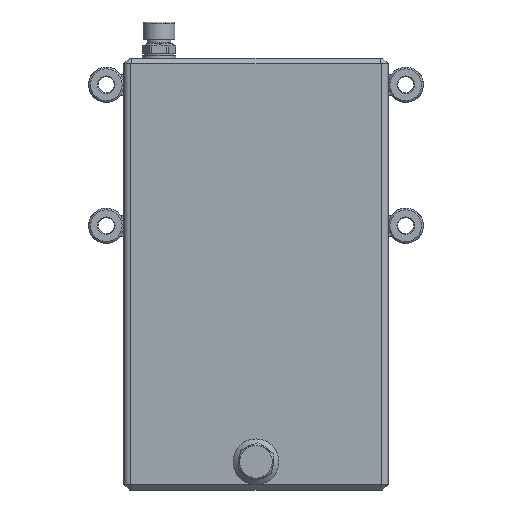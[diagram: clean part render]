
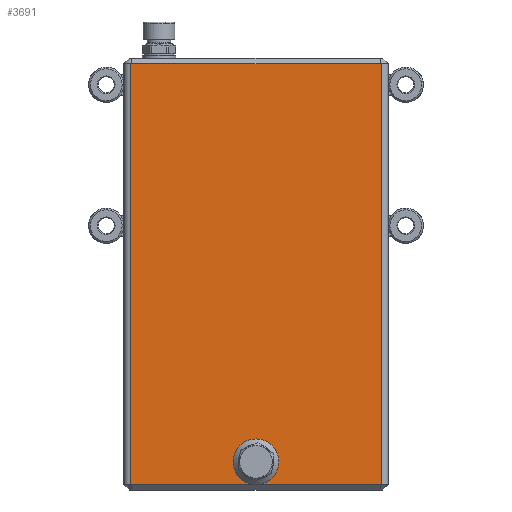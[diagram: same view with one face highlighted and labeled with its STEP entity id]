
A CAD part, front view. The second image highlights one B-rep face of the part: STEP entity #3691.
In plain terms, the highlighted planar face has unit normal (0, -1, 0).
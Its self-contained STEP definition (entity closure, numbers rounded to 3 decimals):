
#111=LINE('',#7881,#330);
#114=LINE('',#7889,#333);
#115=LINE('',#7893,#334);
#118=LINE('',#7903,#337);
#119=LINE('',#7908,#338);
#120=LINE('',#7909,#339);
#122=LINE('',#7942,#341);
#131=LINE('',#7966,#350);
#132=LINE('',#7968,#351);
#330=VECTOR('',#6705,1000.);
#333=VECTOR('',#6712,1000.);
#334=VECTOR('',#6717,1000.);
#337=VECTOR('',#6726,1000.);
#338=VECTOR('',#6733,1000.);
#339=VECTOR('',#6734,1000.);
#341=VECTOR('',#6776,1000.);
#350=VECTOR('',#6803,1000.);
#351=VECTOR('',#6806,1000.);
#1099=ORIENTED_EDGE('',*,*,#1786,.T.);
#1100=ORIENTED_EDGE('',*,*,#1784,.T.);
#1101=ORIENTED_EDGE('',*,*,#1785,.T.);
#1102=ORIENTED_EDGE('',*,*,#1783,.T.);
#1103=ORIENTED_EDGE('',*,*,#1778,.T.);
#1104=ORIENTED_EDGE('',*,*,#1810,.T.);
#1105=ORIENTED_EDGE('',*,*,#1811,.T.);
#1106=ORIENTED_EDGE('',*,*,#1798,.T.);
#1107=ORIENTED_EDGE('',*,*,#1776,.T.);
#1108=ORIENTED_EDGE('',*,*,#1772,.T.);
#1772=EDGE_CURVE('',#2189,#2162,#111,.T.);
#1776=EDGE_CURVE('',#2192,#2189,#114,.T.);
#1778=EDGE_CURVE('',#2193,#2194,#115,.T.);
#1783=EDGE_CURVE('',#2157,#2193,#118,.T.);
#1784=EDGE_CURVE('',#2197,#2197,#2489,.F.);
#1785=EDGE_CURVE('',#2197,#2157,#119,.T.);
#1786=EDGE_CURVE('',#2162,#2197,#120,.T.);
#1798=EDGE_CURVE('',#2208,#2192,#122,.T.);
#1810=EDGE_CURVE('',#2194,#2214,#131,.T.);
#1811=EDGE_CURVE('',#2214,#2208,#132,.T.);
#2157=VERTEX_POINT('',#7751);
#2162=VERTEX_POINT('',#7767);
#2189=VERTEX_POINT('',#7882);
#2192=VERTEX_POINT('',#7890);
#2193=VERTEX_POINT('',#7894);
#2194=VERTEX_POINT('',#7895);
#2197=VERTEX_POINT('',#7906);
#2208=VERTEX_POINT('',#7940);
#2214=VERTEX_POINT('',#7965);
#2489=CIRCLE('',#5861,13.);
#2847=EDGE_LOOP('',(#1099,#1100,#1101,#1102,#1103,#1104,#1105,#1106,#1107,
#1108));
#3249=FACE_BOUND('',#2847,.T.);
#3492=PLANE('',#5892);
#3691=ADVANCED_FACE('',(#3249),#3492,.T.);
#5861=AXIS2_PLACEMENT_3D('',#7905,#6729,#6730);
#5892=AXIS2_PLACEMENT_3D('',#7967,#6804,#6805);
#6705=DIRECTION('',(1.,0.,0.));
#6712=DIRECTION('',(0.,0.,-1.));
#6717=DIRECTION('',(0.,0.,1.));
#6726=DIRECTION('',(1.,0.,0.));
#6729=DIRECTION('',(0.,-1.,0.));
#6730=DIRECTION('',(1.,0.,0.));
#6733=DIRECTION('',(1.,0.,0.));
#6734=DIRECTION('',(1.,0.,0.));
#6776=DIRECTION('',(-1.,0.,0.));
#6803=DIRECTION('',(-1.,0.,0.));
#6804=DIRECTION('',(0.,-1.,0.));
#6805=DIRECTION('',(1.,0.,0.));
#6806=DIRECTION('',(-1.,0.,0.));
#7751=CARTESIAN_POINT('',(70.5,-75.,3.));
#7767=CARTESIAN_POINT('',(-70.5,-75.,3.));
#7881=CARTESIAN_POINT('',(-72.563,-75.,3.));
#7882=CARTESIAN_POINT('',(-71.,-75.,3.));
#7889=CARTESIAN_POINT('',(-71.,-75.,242.));
#7890=CARTESIAN_POINT('',(-71.,-75.,242.));
#7893=CARTESIAN_POINT('',(71.,-75.,3.));
#7894=CARTESIAN_POINT('',(71.,-75.,3.));
#7895=CARTESIAN_POINT('',(71.,-75.,242.));
#7903=CARTESIAN_POINT('',(-72.563,-75.,3.));
#7905=CARTESIAN_POINT('',(0.,-75.,16.));
#7906=CARTESIAN_POINT('',(0.,-75.,3.));
#7908=CARTESIAN_POINT('',(-72.563,-75.,3.));
#7909=CARTESIAN_POINT('',(-72.563,-75.,3.));
#7940=CARTESIAN_POINT('',(-70.5,-75.,242.));
#7942=CARTESIAN_POINT('',(-72.563,-75.,242.));
#7965=CARTESIAN_POINT('',(70.5,-75.,242.));
#7966=CARTESIAN_POINT('',(-72.563,-75.,242.));
#7967=CARTESIAN_POINT('',(-72.,-75.,122.5));
#7968=CARTESIAN_POINT('',(-72.563,-75.,242.));
